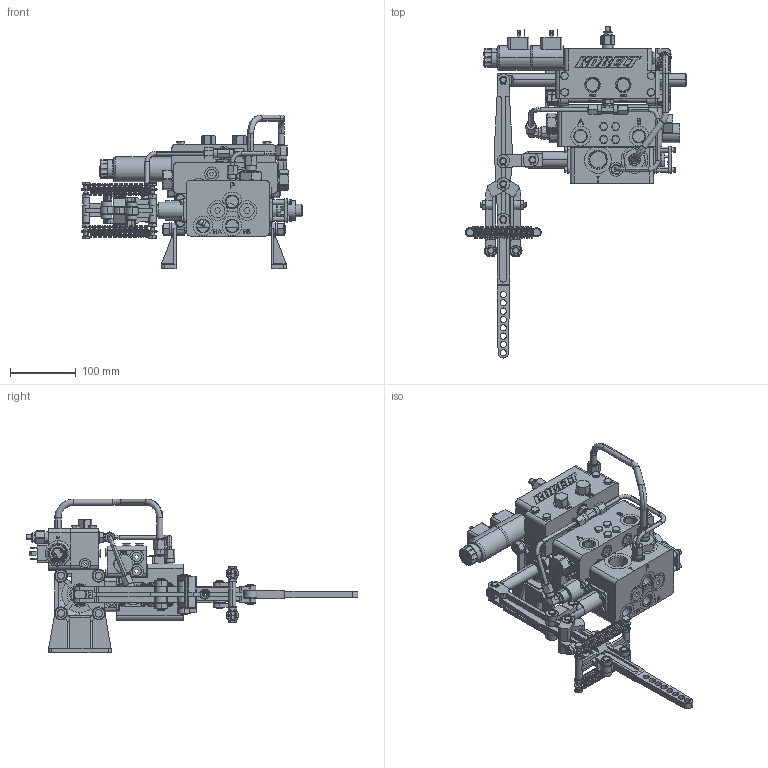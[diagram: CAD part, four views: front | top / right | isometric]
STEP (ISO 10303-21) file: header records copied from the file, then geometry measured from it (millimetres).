
FILE_DESCRIPTION (( 'STEP AP214' ), '1' );
FILE_NAME ('7248.STEP', '2018-09-26T18:07:36', ( 'User' ), ( 'Hewlett-Packard Company' ), 'SwSTEP 2.0', 'SolidWorks 2017', '' );
FILE_SCHEMA (( 'AUTOMOTIVE_DESIGN' ));
Length unit declared in the file: inch
Products named in the file (1): 7248
Bounding box: 337.09 x 505.87 x 234.28 mm (x, y, z)
Surface area: 507204.3 mm2 (no closed solid volume)
Topology: 0 solids, 252 shells, 2598 faces, 9027 edges, 6526 vertices
Faces by surface type: plane 1278, cylinder 818, cone 399, torus 59, bspline 44
Entity records: 158912 total; most frequent: CARTESIAN_POINT 48291, DIRECTION 16170, ORIENTED_EDGE 14172, EDGE_CURVE 9005, VERTEX_POINT 6526, AXIS2_PLACEMENT_3D 5819, VECTOR 4532, LINE 4532
